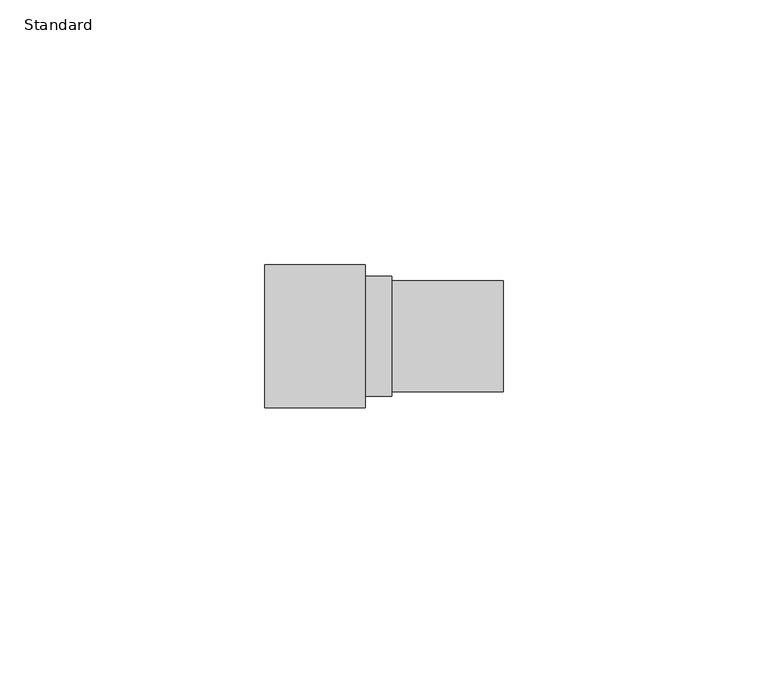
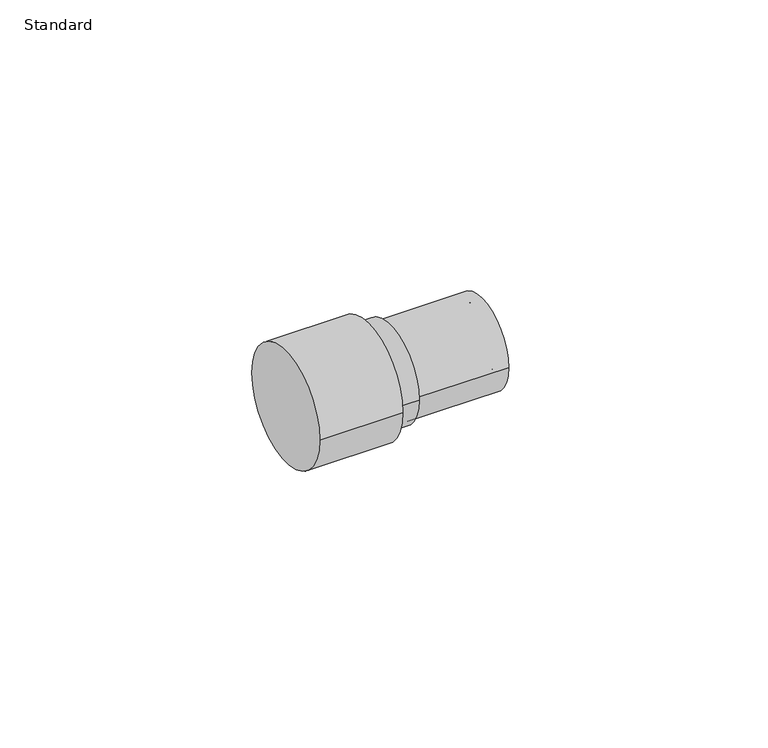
"""IFC4 building model written with IfcOpenShell, lengths in millimetres: pipe fitting geometry, Z_PIF_Tigris_M1_Manifold_Adaptor_Wavin_(nested) : Standard."""

from ifc_helpers import new_model, si_unit, point, frame, origin, origin_2d, place, context, project, spatial, circle_curve, trimmed, segment, composite_curve, outline, extrude, source, transform, mapped, element, save


def standard_738390c8(model_context):
    return source(origin(), model_context, "Body", "SweptSolid", [
        extrude(outline(composite_curve([segment(trimmed(circle_curve(origin_2d(), 13.5), [point((-13.5, 0.0))], [point((13.5, 0.0))], False, "CARTESIAN"), True, "CONTINUOUS"), segment(trimmed(circle_curve(origin_2d(), 13.5), [point((13.5, 0.0))], [point((-13.5, 0.0))], False, "CARTESIAN"), True, "CONTINUOUS")], self_intersect=False)), frame((-20.0, 0.0, 0.0), z_axis=(1.0, 0.0, 0.0), x_axis=(0.0, 1.0, 0.0)), (0.0, 0.0, 1.0), 19.0),
        extrude(outline(composite_curve([segment(trimmed(circle_curve(origin_2d(), 10.5), [point((-10.5, 0.0))], [point((10.5, 0.0))], False, "CARTESIAN"), True, "CONTINUOUS"), segment(trimmed(circle_curve(origin_2d(), 10.5), [point((10.5, 0.0))], [point((-10.5, 0.0))], False, "CARTESIAN"), True, "CONTINUOUS")], self_intersect=False), holes=[composite_curve([segment(trimmed(circle_curve(origin_2d(), 8.0), [point((-8.0, 0.0))], [point((8.0, 0.0))], True, "CARTESIAN"), True, "CONTINUOUS"), segment(trimmed(circle_curve(origin_2d(), 8.0), [point((8.0, 0.0))], [point((-8.0, 0.0))], True, "CARTESIAN"), True, "CONTINUOUS")], self_intersect=False)]), frame((4.0, 0.0, 0.0), z_axis=(1.0, 0.0, 0.0), x_axis=(0.0, 1.0, 0.0)), (0.0, 0.0, 1.0), 21.0),
        extrude(outline(composite_curve([segment(trimmed(circle_curve(origin_2d(), 6.0), [point((-6.0, 0.0))], [point((6.0, 0.0))], False, "CARTESIAN"), True, "CONTINUOUS"), segment(trimmed(circle_curve(origin_2d(), 6.0), [point((6.0, 0.0))], [point((-6.0, 0.0))], False, "CARTESIAN"), True, "CONTINUOUS")], self_intersect=False), holes=[composite_curve([segment(trimmed(circle_curve(origin_2d(), 4.0), [point((-4.0, 0.0))], [point((4.0, 0.0))], True, "CARTESIAN"), True, "CONTINUOUS"), segment(trimmed(circle_curve(origin_2d(), 4.0), [point((4.0, 0.0))], [point((-4.0, 0.0))], True, "CARTESIAN"), True, "CONTINUOUS")], self_intersect=False)]), frame((0.0, 0.0, 0.0), z_axis=(1.0, 0.0, 0.0), x_axis=(0.0, 1.0, 0.0)), (0.0, 0.0, 1.0), 25.0),
        extrude(outline(composite_curve([segment(trimmed(circle_curve(origin_2d(), 11.35), [point((-11.35, 0.0))], [point((11.35, 0.0))], False, "CARTESIAN"), True, "CONTINUOUS"), segment(trimmed(circle_curve(origin_2d(), 11.35), [point((11.35, 0.0))], [point((-11.35, 0.0))], False, "CARTESIAN"), True, "CONTINUOUS")], self_intersect=False)), frame((-1.0, 0.0, 0.0), z_axis=(1.0, 0.0, 0.0), x_axis=(0.0, 1.0, 0.0)), (0.0, 0.0, 1.0), 5.0),
    ])


if __name__ == "__main__":
    model = new_model("IFC4")
    model_context = context("Model", 3, world=origin())
    ifc_project = project(units=[si_unit("LENGTHUNIT", "METRE", prefix="MILLI")], contexts=[model_context])
    site = spatial("IfcSite", under=ifc_project)
    building = spatial("IfcBuilding", under=site)
    placement = place(None, origin())
    standard_shape = standard_738390c8(model_context)
    element("IfcPipeFitting", 1, ObjectType="Z_PIF_Tigris_M1_Manifold_Adaptor_Wavin_(nested) : Standard", at=placement, inside=building, context=model_context, shape_type="MappedRepresentation", body=[
        mapped(standard_shape, transform((0.0, 0.0, 0.0), x_axis=(1.0, 0.0, 0.0), y_axis=(0.0, 1.0, 0.0), z_axis=(0.0, 0.0, 1.0))),
    ])
    save(model, "model.ifc")
